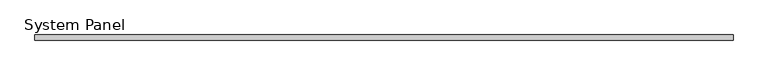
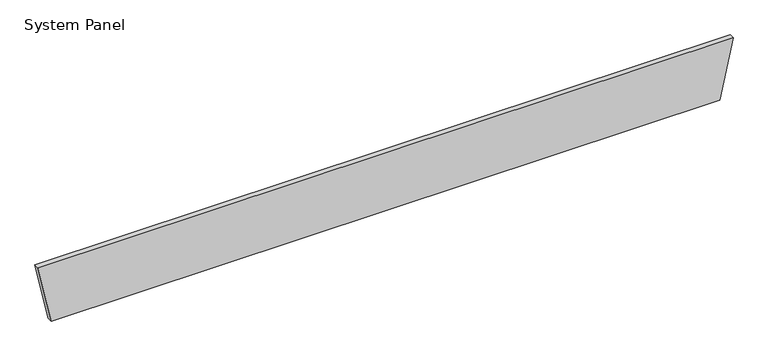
"""IFC4 building model written with IfcOpenShell, lengths in millimetres: plate geometry, System Panel : Equitilt_100mm_Plain_Surfmist."""

from ifc_helpers import new_model, si_unit, frame, origin, place, context, project, spatial, polyline, outline, extrude, source, transform, mapped, element, save


def system_panel_b4dcba00(model_context):
    return source(origin(), model_context, "Body", "SweptSolid", [
        extrude(outline(polyline([(0.0, -6521.7433237), (0.0, 6521.7433237), (1200.0, 6782.6149856), (1200.0, -6782.6149856), (0.0, -6521.7433237)])), frame((0.0, -100.0, 0.0), z_axis=(0.0, 1.0, 0.0), x_axis=(0.0, 0.0, 1.0)), (0.0, 0.0, 1.0), 100.0),
    ])


if __name__ == "__main__":
    model = new_model("IFC4")
    model_context = context("Model", 3, world=origin())
    ifc_project = project(units=[si_unit("LENGTHUNIT", "METRE", prefix="MILLI")], contexts=[model_context])
    site = spatial("IfcSite", under=ifc_project)
    building = spatial("IfcBuilding", under=site)
    placement = place(None, origin())
    system_panel_shape = system_panel_b4dcba00(model_context)
    element("IfcPlate", 1, ObjectType="System Panel : Equitilt_100mm_Plain_Surfmist", at=placement, inside=building, context=model_context, shape_type="MappedRepresentation", body=[
        mapped(system_panel_shape, transform((0.0, 0.0, 0.0), x_axis=(1.0, 0.0, 0.0), y_axis=(0.0, 1.0, 0.0), z_axis=(0.0, 0.0, 1.0))),
    ])
    save(model, "model.ifc")
